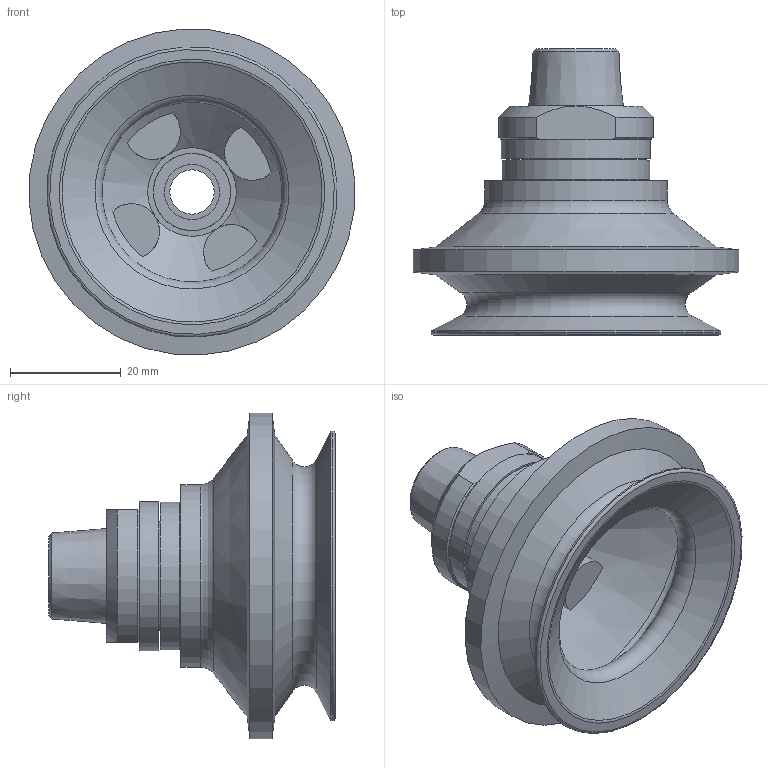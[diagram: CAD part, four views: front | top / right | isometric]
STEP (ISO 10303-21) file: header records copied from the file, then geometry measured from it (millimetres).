
FILE_DESCRIPTION (( 'STEP AP214' ), '1' );
FILE_NAME ('PSB50-38MS.STEP', '2025-10-16T17:15:00', ( '' ), ( '' ), 'SwSTEP 2.0', 'SolidWorks 2025', '' );
FILE_SCHEMA (( 'AUTOMOTIVE_DESIGN' ));
Length unit declared in the file: inch
Products named in the file (3): 403.012; PSB50-38MS; PSB50
Assembly tree (2 placements, depth 2):
  PSB50-38MS
    403.012
    PSB50
Bounding box: 58.91 x 51.76 x 58.91 mm (x, y, z)
Volume: 24243.1 mm3; surface area: 18107.3 mm2
Topology: 2 solids, 2 shells, 76 faces, 156 edges, 97 vertices
Faces by surface type: cylinder 23, plane 23, cone 19, torus 11
Full cylindrical faces by diameter (mm): 8 x1, 10.5 x1, 12.5 x1, 14 x1, 26.791 x1, 27 x1, 33 x1, 52.5 x1, 59 x1
Entity records: 2615 total; most frequent: CARTESIAN_POINT 1022, DIRECTION 352, ORIENTED_EDGE 240, AXIS2_PLACEMENT_3D 167, EDGE_LOOP 122, EDGE_CURVE 120, FACE_OUTER_BOUND 94, VERTEX_POINT 90
